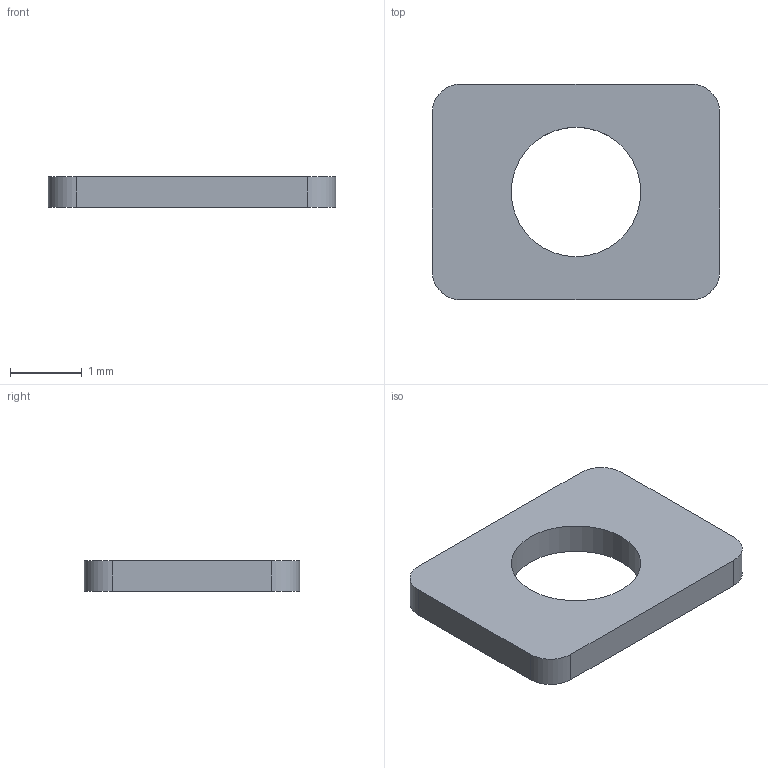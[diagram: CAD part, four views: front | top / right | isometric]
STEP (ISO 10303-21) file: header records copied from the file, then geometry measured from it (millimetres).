
FILE_DESCRIPTION(('Open CASCADE Model'),'2;1');
FILE_NAME('Open CASCADE Shape Model','2026-09-09T11:50:30',('Author'),( 'Open CASCADE'),'Open CASCADE STEP processor 7.7','Open CASCADE 7.7' ,'Unknown');
FILE_SCHEMA(('AUTOMOTIVE_DESIGN { 1 0 10303 214 1 1 1 1 }'));
Length unit declared in the file: millimetre
Products named in the file (1): Open CASCADE STEP translator 7.7 19
Bounding box: 4 x 3 x 0.43 mm (x, y, z)
Volume: 4 mm3; surface area: 26.8 mm2
Topology: 1 solids, 1 shells, 11 faces, 27 edges, 18 vertices
Faces by surface type: plane 6, cylinder 5
Full cylindrical faces by diameter (mm): 1.8 x1
Entity records: 708 total; most frequent: CARTESIAN_POINT 135, DIRECTION 111, LINE 61, VECTOR 61, ORIENTED_EDGE 54, PCURVE 54, DEFINITIONAL_REPRESENTATION 54, EDGE_CURVE 27
